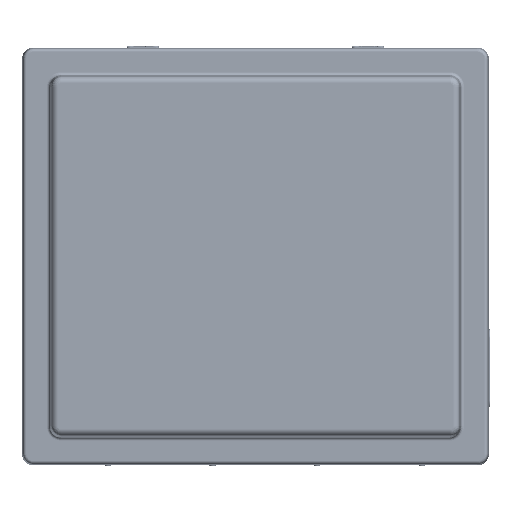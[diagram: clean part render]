
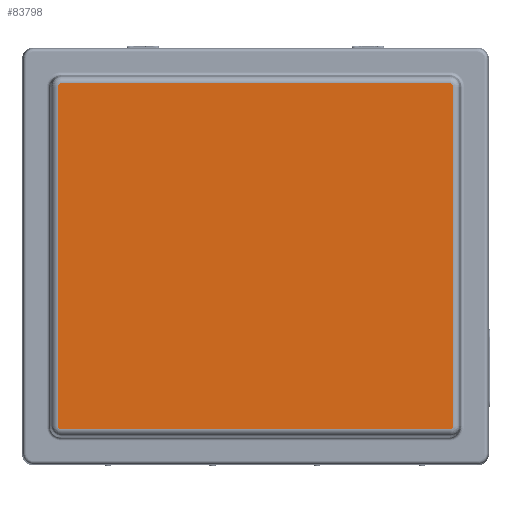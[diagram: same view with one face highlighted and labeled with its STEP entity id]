
A CAD part, top view. The second image highlights one B-rep face of the part: STEP entity #83798.
In plain terms, the highlighted planar face has unit normal (0, 0, 1).
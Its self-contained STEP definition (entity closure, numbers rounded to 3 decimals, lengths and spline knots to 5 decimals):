
#8836=LINE('',#165121,#14636);
#8837=LINE('',#165138,#14637);
#8840=LINE('',#165145,#14640);
#8842=LINE('',#165160,#14642);
#14636=VECTOR('',#104885,1.);
#14637=VECTOR('',#104906,1.);
#14640=VECTOR('',#104913,1.);
#14642=VECTOR('',#104933,1.);
#34807=ORIENTED_EDGE('',*,*,#50994,.T.);
#34808=ORIENTED_EDGE('',*,*,#50988,.T.);
#34809=ORIENTED_EDGE('',*,*,#50990,.T.);
#34810=ORIENTED_EDGE('',*,*,#50996,.T.);
#34811=ORIENTED_EDGE('',*,*,#51002,.T.);
#34812=ORIENTED_EDGE('',*,*,#51008,.T.);
#34813=ORIENTED_EDGE('',*,*,#51006,.T.);
#34814=ORIENTED_EDGE('',*,*,#51000,.T.);
#50988=EDGE_CURVE('',#61158,#61161,#8836,.T.);
#50990=EDGE_CURVE('',#61161,#61163,#65827,.T.);
#50994=EDGE_CURVE('',#61164,#61158,#65831,.T.);
#50996=EDGE_CURVE('',#61163,#61167,#8837,.T.);
#51000=EDGE_CURVE('',#61168,#61164,#8840,.T.);
#51002=EDGE_CURVE('',#61167,#61171,#65835,.T.);
#51006=EDGE_CURVE('',#61172,#61168,#65839,.T.);
#51008=EDGE_CURVE('',#61171,#61172,#8842,.T.);
#61158=VERTEX_POINT('',#165115);
#61161=VERTEX_POINT('',#165120);
#61163=VERTEX_POINT('',#165125);
#61164=VERTEX_POINT('',#165130);
#61167=VERTEX_POINT('',#165137);
#61168=VERTEX_POINT('',#165142);
#61171=VERTEX_POINT('',#165149);
#61172=VERTEX_POINT('',#165154);
#65827=CIRCLE('',#90299,0.00304);
#65831=CIRCLE('',#90304,0.00304);
#65835=CIRCLE('',#90311,0.00304);
#65839=CIRCLE('',#90316,0.00304);
#71006=EDGE_LOOP('',(#34807,#34808,#34809,#34810,#34811,#34812,#34813,#34814));
#76814=FACE_BOUND('',#71006,.T.);
#80219=PLANE('',#90812);
#83798=ADVANCED_FACE('',(#76814),#80219,.T.);
#90299=AXIS2_PLACEMENT_3D('',#165126,#104890,#104891);
#90304=AXIS2_PLACEMENT_3D('',#165133,#104900,#104901);
#90311=AXIS2_PLACEMENT_3D('',#165150,#104918,#104919);
#90316=AXIS2_PLACEMENT_3D('',#165157,#104928,#104929);
#90812=AXIS2_PLACEMENT_3D('',#167445,#106160,#106161);
#104885=DIRECTION('',(0.,1.,0.));
#104890=DIRECTION('',(0.,0.,1.));
#104891=DIRECTION('',(0.,-1.,0.));
#104900=DIRECTION('',(0.,0.,1.));
#104901=DIRECTION('',(0.,-1.,0.));
#104906=DIRECTION('',(-1.,0.,0.));
#104913=DIRECTION('',(1.,0.,0.));
#104918=DIRECTION('',(0.,0.,1.));
#104919=DIRECTION('',(0.,-1.,0.));
#104928=DIRECTION('',(0.,0.,1.));
#104929=DIRECTION('',(0.,-1.,0.));
#104933=DIRECTION('',(0.,-1.,0.));
#106160=DIRECTION('',(0.,0.,1.));
#106161=DIRECTION('',(0.,-1.,0.));
#165115=CARTESIAN_POINT('',(0.11129,-0.13827,0.14959));
#165120=CARTESIAN_POINT('',(0.11129,0.19147,0.14959));
#165121=CARTESIAN_POINT('',(0.11129,0.19147,0.14959));
#165125=CARTESIAN_POINT('',(0.10825,0.19451,0.14959));
#165126=CARTESIAN_POINT('',(0.10825,0.19147,0.14959));
#165130=CARTESIAN_POINT('',(0.10825,-0.14131,0.14959));
#165133=CARTESIAN_POINT('',(0.10825,-0.13827,0.14959));
#165137=CARTESIAN_POINT('',(-0.26914,0.19451,0.14959));
#165138=CARTESIAN_POINT('',(-0.26914,0.19451,0.14959));
#165142=CARTESIAN_POINT('',(-0.26914,-0.14131,0.14959));
#165145=CARTESIAN_POINT('',(0.10825,-0.14131,0.14959));
#165149=CARTESIAN_POINT('',(-0.27218,0.19147,0.14959));
#165150=CARTESIAN_POINT('',(-0.26914,0.19147,0.14959));
#165154=CARTESIAN_POINT('',(-0.27218,-0.13827,0.14959));
#165157=CARTESIAN_POINT('',(-0.26914,-0.13827,0.14959));
#165160=CARTESIAN_POINT('',(-0.27218,-0.13827,0.14959));
#167445=CARTESIAN_POINT('',(0.10825,0.19147,0.14959));
